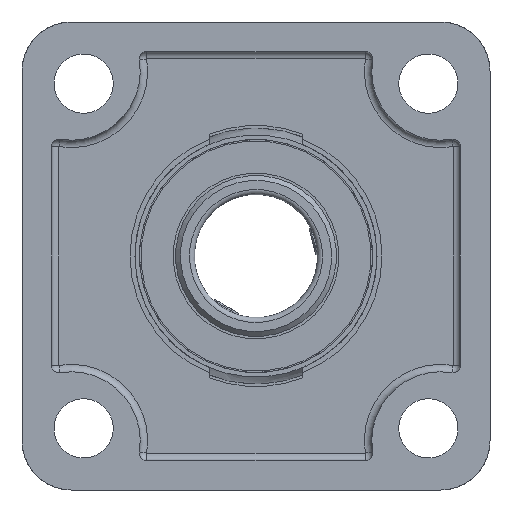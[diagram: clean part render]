
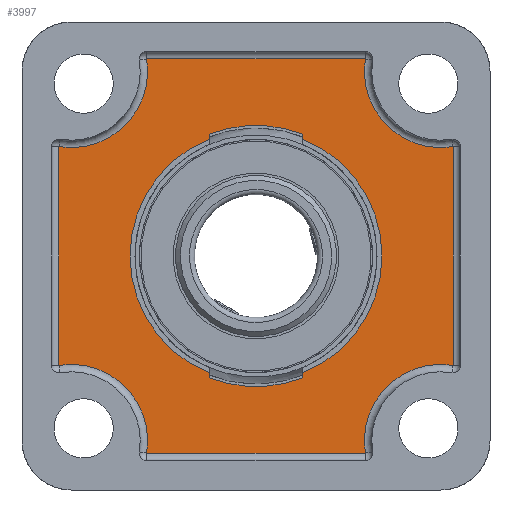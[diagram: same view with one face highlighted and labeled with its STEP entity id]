
A CAD part, front view. The second image highlights one B-rep face of the part: STEP entity #3997.
In plain terms, the highlighted planar face has unit normal (0, -1, 0).
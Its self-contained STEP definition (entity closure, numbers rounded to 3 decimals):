
#234=FACE_BOUND('',#586,.T.);
#351=FACE_OUTER_BOUND('',#585,.T.);
#585=EDGE_LOOP('',(#2647,#2648,#2649,#2650,#2651,#2652,#2653,#2654));
#586=EDGE_LOOP('',(#2655,#2656,#2657,#2658,#2659,#2660,#2661,#2662));
#857=LINE('',#6341,#1007);
#863=LINE('',#6359,#1013);
#865=LINE('',#6366,#1015);
#866=LINE('',#6370,#1016);
#867=LINE('',#6374,#1017);
#868=LINE('',#6378,#1018);
#869=LINE('',#6383,#1019);
#870=LINE('',#6387,#1020);
#1007=VECTOR('',#4940,10.);
#1013=VECTOR('',#4956,10.);
#1015=VECTOR('',#4964,10.);
#1016=VECTOR('',#4967,10.);
#1017=VECTOR('',#4970,10.);
#1018=VECTOR('',#4973,10.);
#1019=VECTOR('',#4978,10.);
#1020=VECTOR('',#4981,10.);
#1156=CIRCLE('',#4310,26.5);
#1160=CIRCLE('',#4317,15.5);
#1161=CIRCLE('',#4318,15.5);
#1162=CIRCLE('',#4319,15.5);
#1163=CIRCLE('',#4320,15.5);
#1164=CIRCLE('',#4321,25.571);
#1165=CIRCLE('',#4322,26.5);
#1166=CIRCLE('',#4323,25.571);
#1544=VERTEX_POINT('',#6338);
#1545=VERTEX_POINT('',#6340);
#1547=VERTEX_POINT('',#6346);
#1552=VERTEX_POINT('',#6357);
#1553=VERTEX_POINT('',#6364);
#1554=VERTEX_POINT('',#6365);
#1555=VERTEX_POINT('',#6367);
#1556=VERTEX_POINT('',#6369);
#1557=VERTEX_POINT('',#6371);
#1558=VERTEX_POINT('',#6373);
#1559=VERTEX_POINT('',#6375);
#1560=VERTEX_POINT('',#6377);
#1561=VERTEX_POINT('',#6380);
#1562=VERTEX_POINT('',#6382);
#1563=VERTEX_POINT('',#6384);
#1564=VERTEX_POINT('',#6386);
#1992=EDGE_CURVE('',#1545,#1544,#857,.T.);
#1995=EDGE_CURVE('',#1544,#1547,#1156,.T.);
#2001=EDGE_CURVE('',#1547,#1552,#863,.T.);
#2004=EDGE_CURVE('',#1553,#1554,#865,.T.);
#2005=EDGE_CURVE('',#1555,#1553,#1160,.T.);
#2006=EDGE_CURVE('',#1556,#1555,#866,.T.);
#2007=EDGE_CURVE('',#1557,#1556,#1161,.T.);
#2008=EDGE_CURVE('',#1558,#1557,#867,.T.);
#2009=EDGE_CURVE('',#1559,#1558,#1162,.T.);
#2010=EDGE_CURVE('',#1560,#1559,#868,.T.);
#2011=EDGE_CURVE('',#1554,#1560,#1163,.T.);
#2012=EDGE_CURVE('',#1561,#1552,#1164,.T.);
#2013=EDGE_CURVE('',#1561,#1562,#869,.T.);
#2014=EDGE_CURVE('',#1562,#1563,#1165,.T.);
#2015=EDGE_CURVE('',#1563,#1564,#870,.T.);
#2016=EDGE_CURVE('',#1545,#1564,#1166,.T.);
#2647=ORIENTED_EDGE('',*,*,#2004,.F.);
#2648=ORIENTED_EDGE('',*,*,#2005,.F.);
#2649=ORIENTED_EDGE('',*,*,#2006,.F.);
#2650=ORIENTED_EDGE('',*,*,#2007,.F.);
#2651=ORIENTED_EDGE('',*,*,#2008,.F.);
#2652=ORIENTED_EDGE('',*,*,#2009,.F.);
#2653=ORIENTED_EDGE('',*,*,#2010,.F.);
#2654=ORIENTED_EDGE('',*,*,#2011,.F.);
#2655=ORIENTED_EDGE('',*,*,#1992,.T.);
#2656=ORIENTED_EDGE('',*,*,#1995,.T.);
#2657=ORIENTED_EDGE('',*,*,#2001,.T.);
#2658=ORIENTED_EDGE('',*,*,#2012,.F.);
#2659=ORIENTED_EDGE('',*,*,#2013,.T.);
#2660=ORIENTED_EDGE('',*,*,#2014,.T.);
#2661=ORIENTED_EDGE('',*,*,#2015,.T.);
#2662=ORIENTED_EDGE('',*,*,#2016,.F.);
#3906=PLANE('',#4316);
#3997=ADVANCED_FACE('',(#351,#234),#3906,.T.);
#4310=AXIS2_PLACEMENT_3D('',#6347,#4945,#4946);
#4316=AXIS2_PLACEMENT_3D('',#6363,#4962,#4963);
#4317=AXIS2_PLACEMENT_3D('',#6368,#4965,#4966);
#4318=AXIS2_PLACEMENT_3D('',#6372,#4968,#4969);
#4319=AXIS2_PLACEMENT_3D('',#6376,#4971,#4972);
#4320=AXIS2_PLACEMENT_3D('',#6379,#4974,#4975);
#4321=AXIS2_PLACEMENT_3D('',#6381,#4976,#4977);
#4322=AXIS2_PLACEMENT_3D('',#6385,#4979,#4980);
#4323=AXIS2_PLACEMENT_3D('',#6388,#4982,#4983);
#4940=DIRECTION('',(0.,0.,-1.));
#4945=DIRECTION('center_axis',(0.,1.,0.));
#4946=DIRECTION('ref_axis',(0.358,0.,-0.934));
#4956=DIRECTION('',(0.,0.,1.));
#4962=DIRECTION('center_axis',(0.,-1.,0.));
#4963=DIRECTION('ref_axis',(0.,0.,-1.));
#4964=DIRECTION('',(1.,0.,0.));
#4965=DIRECTION('center_axis',(0.,-1.,0.));
#4966=DIRECTION('ref_axis',(0.707,0.,-0.707));
#4967=DIRECTION('',(0.,0.,1.));
#4968=DIRECTION('center_axis',(0.,-1.,0.));
#4969=DIRECTION('ref_axis',(0.707,0.,0.707));
#4970=DIRECTION('',(-1.,0.,0.));
#4971=DIRECTION('center_axis',(0.,-1.,0.));
#4972=DIRECTION('ref_axis',(-0.707,0.,0.707));
#4973=DIRECTION('',(0.,0.,-1.));
#4974=DIRECTION('center_axis',(0.,-1.,0.));
#4975=DIRECTION('ref_axis',(-0.707,0.,-0.707));
#4976=DIRECTION('center_axis',(0.,-1.,0.));
#4977=DIRECTION('ref_axis',(1.,0.,0.));
#4978=DIRECTION('',(0.,0.,1.));
#4979=DIRECTION('center_axis',(0.,1.,0.));
#4980=DIRECTION('ref_axis',(0.358,0.,0.934));
#4981=DIRECTION('',(0.,0.,-1.));
#4982=DIRECTION('center_axis',(0.,-1.,0.));
#4983=DIRECTION('ref_axis',(1.,0.,0.));
#6338=CARTESIAN_POINT('',(9.5,5.,-24.739));
#6340=CARTESIAN_POINT('',(9.5,5.,-23.741));
#6341=CARTESIAN_POINT('',(9.5,5.,-12.369));
#6346=CARTESIAN_POINT('',(-9.5,5.,-24.739));
#6347=CARTESIAN_POINT('Origin',(0.,5.,0.));
#6357=CARTESIAN_POINT('',(-9.5,5.,-23.741));
#6359=CARTESIAN_POINT('',(-9.5,5.,-11.138));
#6363=CARTESIAN_POINT('Origin',(0.,5.,
0.));
#6364=CARTESIAN_POINT('',(-22.203,5.,40.));
#6365=CARTESIAN_POINT('',(22.203,5.,40.));
#6366=CARTESIAN_POINT('',(-12.042,5.,40.));
#6367=CARTESIAN_POINT('',(-40.,5.,22.203));
#6368=CARTESIAN_POINT('Origin',(-37.5,5.,37.5));
#6369=CARTESIAN_POINT('',(-40.,5.,-22.203));
#6370=CARTESIAN_POINT('',(-40.,5.,-12.042));
#6371=CARTESIAN_POINT('',(-22.203,5.,-40.));
#6372=CARTESIAN_POINT('Origin',(-37.5,5.,-37.5));
#6373=CARTESIAN_POINT('',(22.203,5.,-40.));
#6374=CARTESIAN_POINT('',(12.042,5.,-40.));
#6375=CARTESIAN_POINT('',(40.,5.,-22.203));
#6376=CARTESIAN_POINT('Origin',(37.5,5.,-37.5));
#6377=CARTESIAN_POINT('',(40.,5.,22.203));
#6378=CARTESIAN_POINT('',(40.,5.,12.042));
#6379=CARTESIAN_POINT('Origin',(37.5,5.,37.5));
#6380=CARTESIAN_POINT('',(-9.5,5.,23.741));
#6381=CARTESIAN_POINT('Origin',(0.,5.,0.));
#6382=CARTESIAN_POINT('',(-9.5,5.,24.739));
#6383=CARTESIAN_POINT('',(-9.5,5.,11.138));
#6384=CARTESIAN_POINT('',(9.5,5.,24.739));
#6385=CARTESIAN_POINT('Origin',(0.,5.,0.));
#6386=CARTESIAN_POINT('',(9.5,5.,23.741));
#6387=CARTESIAN_POINT('',(9.5,5.,12.369));
#6388=CARTESIAN_POINT('Origin',(0.,5.,0.));
